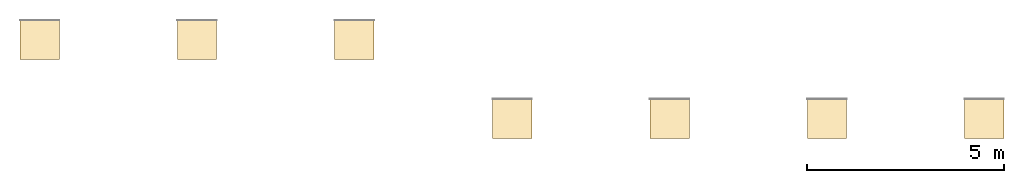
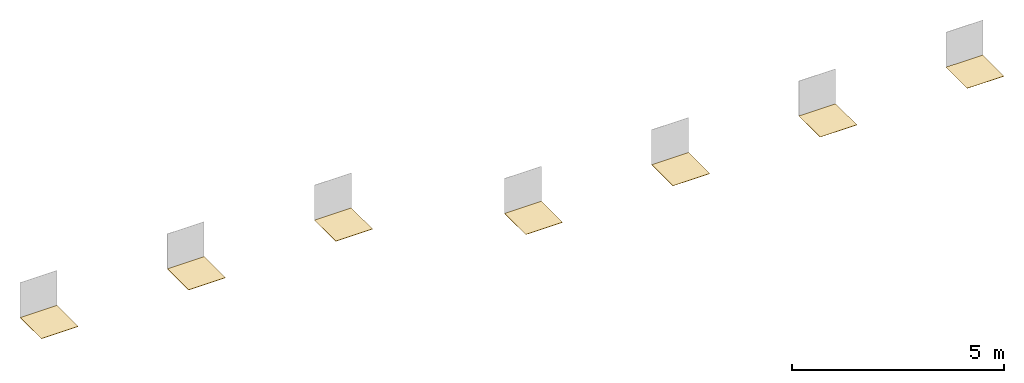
# One storey, part 2 of 2: 7 coverings.
"""IFC2X3 building model written with IfcOpenShell, lengths in millimetres."""

from ifc_helpers import new_model, entity, si_unit, converted_unit, derived_unit, direction, frame, frame_2d, origin, origin_2d_with_axis, place, context, subcontext, project, spatial, rectangle, extrude, material, layer, layer_set, layer_usage, type_object, element, save


model = new_model("IFC2X3")

# Units and contexts
model_context = context("Model", 3, precision=0.01, world=origin(), true_north=direction((6.12303176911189e-17, 1.0)))
body_context = subcontext(model_context, "Body", "Model", "MODEL_VIEW")
ifc_project = project(units=[si_unit("LENGTHUNIT", "METRE", prefix="MILLI"), si_unit("AREAUNIT", "SQUARE_METRE"), si_unit("VOLUMEUNIT", "CUBIC_METRE"), converted_unit("PLANEANGLEUNIT", "DEGREE", entity("IfcRatioMeasure", 0.0174532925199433), si_unit("PLANEANGLEUNIT", "RADIAN"), dimensions=[0, 0, 0, 0, 0, 0, 0]), si_unit("MASSUNIT", "GRAM", prefix="KILO"), derived_unit("MASSDENSITYUNIT", [(si_unit("MASSUNIT", "GRAM", prefix="KILO"), 1), (si_unit("LENGTHUNIT", "METRE"), -3)]), derived_unit("MOMENTOFINERTIAUNIT", [(si_unit("LENGTHUNIT", "METRE"), 4)]), si_unit("TIMEUNIT", "SECOND"), si_unit("FREQUENCYUNIT", "HERTZ"), si_unit("THERMODYNAMICTEMPERATUREUNIT", "DEGREE_CELSIUS"), derived_unit("THERMALTRANSMITTANCEUNIT", [(si_unit("MASSUNIT", "GRAM", prefix="KILO"), 1), (si_unit("THERMODYNAMICTEMPERATUREUNIT", "KELVIN"), -1), (si_unit("TIMEUNIT", "SECOND"), -3)]), derived_unit("VOLUMETRICFLOWRATEUNIT", [(si_unit("LENGTHUNIT", "METRE"), 3), (si_unit("TIMEUNIT", "SECOND"), -1)]), si_unit("ELECTRICCURRENTUNIT", "AMPERE"), si_unit("ELECTRICVOLTAGEUNIT", "VOLT"), si_unit("POWERUNIT", "WATT"), si_unit("FORCEUNIT", "NEWTON", prefix="KILO"), si_unit("ILLUMINANCEUNIT", "LUX"), si_unit("LUMINOUSFLUXUNIT", "LUMEN"), si_unit("LUMINOUSINTENSITYUNIT", "CANDELA"), derived_unit("USERDEFINED", [(si_unit("MASSUNIT", "GRAM", prefix="KILO"), -1), (si_unit("LENGTHUNIT", "METRE"), -2), (si_unit("TIMEUNIT", "SECOND"), 3), (si_unit("LUMINOUSFLUXUNIT", "LUMEN"), 1)]), derived_unit("LINEARVELOCITYUNIT", [(si_unit("LENGTHUNIT", "METRE"), 1), (si_unit("TIMEUNIT", "SECOND"), -1)]), si_unit("PRESSUREUNIT", "PASCAL"), derived_unit("USERDEFINED", [(si_unit("LENGTHUNIT", "METRE"), -2), (si_unit("MASSUNIT", "GRAM", prefix="KILO"), 1), (si_unit("TIMEUNIT", "SECOND"), -2)]), derived_unit("LINEARFORCEUNIT", [(si_unit("MASSUNIT", "GRAM", prefix="KILO"), 1), (si_unit("LENGTHUNIT", "METRE"), 1), (si_unit("TIMEUNIT", "SECOND"), -2), (si_unit("LENGTHUNIT", "METRE"), -1)]), derived_unit("PLANARFORCEUNIT", [(si_unit("MASSUNIT", "GRAM", prefix="KILO"), 1), (si_unit("LENGTHUNIT", "METRE"), 1), (si_unit("TIMEUNIT", "SECOND"), -2), (si_unit("LENGTHUNIT", "METRE"), -2)])], contexts=[model_context])

# Site, building, storey
site_placement = place(None, origin())
site = spatial("IfcSite", under=ifc_project, at=site_placement, Name="Default", CompositionType="ELEMENT")
building_placement = place(site_placement, origin())
building = spatial("IfcBuilding", under=site, at=building_placement, CompositionType="ELEMENT")
storey_placement = place(building_placement, origin())
storey = spatial("IfcBuildingStorey", under=building, at=storey_placement, Name="Level 1", CompositionType="ELEMENT", Elevation=0.0)

# Coverings
ifc_material_1 = material(Name="REVIGRÉS-LOCUS-DECOR-16,5x19-SOFT GRIP-HEXA FLOW BONE")
ifc_layer_1 = layer(ifc_material_1, 8.5)
ifc_layer_set_1 = layer_set([ifc_layer_1], Name="Floor:REVIGRÉS-LOCUS-DECOR-16,5X19-SOFT GRIP-HEXA FLOW BONE")
ifc_layer_usage_1 = layer_usage(ifc_layer_set_1, "AXIS3", "POSITIVE", 0.0)
covering_type_1 = type_object("IfcCoveringType", Name="Floor:REVIGRÉS-LOCUS-DECOR-16,5X19-SOFT GRIP-HEXA FLOW BONE", PredefinedType="CLADDING", material=ifc_layer_set_1)
covering_1_placement = place(storey_placement, origin())
element("IfcCovering", 1, at=covering_1_placement, inside=storey, type_object=covering_type_1, material=ifc_layer_usage_1, Name="Floor:REVIGRÉS-LOCUS-DECOR-16,5X19-SOFT GRIP-HEXA FLOW BONE", ObjectType="Floor:REVIGRÉS-LOCUS-DECOR-16,5X19-SOFT GRIP-HEXA FLOW BONE", PredefinedType="CLADDING", context=body_context, shape_type="SweptSolid", body=[
    extrude(rectangle(XDim=1000.65, YDim=1000.0, at=origin_2d_with_axis()), frame((3436.10173013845, 2603.50079736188, 0.0), z_axis=(0.0, 0.0, -1.0), x_axis=(0.0, 1.0, 0.0)), (0.0, 0.0, 1.0), 8.5),
])
ifc_material_2 = material(Name="REVIGRÉS-LOCUS-DECOR-16,5x19-SOFT GRIP-HEXA FLOW SMOG")
ifc_layer_2 = layer(ifc_material_2, 8.5)
ifc_layer_set_2 = layer_set([ifc_layer_2], Name="Floor:REVIGRÉS-LOCUS-DECOR-16,5X19-SOFT GRIP-HEXA FLOW SMOG")
ifc_layer_usage_2 = layer_usage(ifc_layer_set_2, "AXIS3", "POSITIVE", 0.0)
covering_type_2 = type_object("IfcCoveringType", Name="Floor:REVIGRÉS-LOCUS-DECOR-16,5X19-SOFT GRIP-HEXA FLOW SMOG", PredefinedType="CLADDING", material=ifc_layer_set_2)
covering_2_placement = place(storey_placement, origin())
element("IfcCovering", 2, at=covering_2_placement, inside=storey, type_object=covering_type_2, material=ifc_layer_usage_2, Name="Floor:REVIGRÉS-LOCUS-DECOR-16,5X19-SOFT GRIP-HEXA FLOW SMOG", ObjectType="Floor:REVIGRÉS-LOCUS-DECOR-16,5X19-SOFT GRIP-HEXA FLOW SMOG", PredefinedType="CLADDING", context=body_context, shape_type="SweptSolid", body=[
    extrude(rectangle(XDim=1000.65, YDim=999.999999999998, at=origin_2d_with_axis()), frame((7436.10173013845, 2603.50079736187, 0.0), z_axis=(0.0, 0.0, -1.0), x_axis=(0.0, 1.0, 0.0)), (0.0, 0.0, 1.0), 8.5),
])
ifc_material_3 = material(Name="REVIGRÉS-LOCUS-DECOR-16,5x19-SOFT GRIP-HEXA SHADOW GRIS")
ifc_layer_3 = layer(ifc_material_3, 8.5)
ifc_layer_set_3 = layer_set([ifc_layer_3], Name="Floor:REVIGRÉS-LOCUS-DECOR-16,5X19-SOFT GRIP-HEXA SHADOW GRIS")
ifc_layer_usage_3 = layer_usage(ifc_layer_set_3, "AXIS3", "POSITIVE", 0.0)
covering_type_3 = type_object("IfcCoveringType", Name="Floor:REVIGRÉS-LOCUS-DECOR-16,5X19-SOFT GRIP-HEXA SHADOW GRIS", PredefinedType="CLADDING", material=ifc_layer_set_3)
covering_3_placement = place(storey_placement, origin())
element("IfcCovering", 3, at=covering_3_placement, inside=storey, type_object=covering_type_3, material=ifc_layer_usage_3, Name="Floor:REVIGRÉS-LOCUS-DECOR-16,5X19-SOFT GRIP-HEXA SHADOW GRIS", ObjectType="Floor:REVIGRÉS-LOCUS-DECOR-16,5X19-SOFT GRIP-HEXA SHADOW GRIS", PredefinedType="CLADDING", context=body_context, shape_type="SweptSolid", body=[
    extrude(rectangle(XDim=1000.65, YDim=999.999999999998, at=origin_2d_with_axis()), frame((11436.1017301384, 2603.50079736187, 0.0), z_axis=(0.0, 0.0, -1.0), x_axis=(0.0, 1.0, 0.0)), (0.0, 0.0, 1.0), 8.5),
])
ifc_material_4 = material(Name="REVIGRÉS-LOCUS-DECOR-30X30-SILK-STRATUS 9 LOCUS MIX BRICK")
ifc_layer_4 = layer(ifc_material_4, 8.5)
ifc_layer_set_4 = layer_set([ifc_layer_4], Name="Floor:REVIGRÉS-LOCUS-DECOR-30X30-SILK-STRATUS 9 LOCUS MIX BRICK")
ifc_layer_usage_4 = layer_usage(ifc_layer_set_4, "AXIS3", "POSITIVE", 0.0)
covering_type_4 = type_object("IfcCoveringType", Name="Floor:REVIGRÉS-LOCUS-DECOR-30X30-SILK-STRATUS 9 LOCUS MIX BRICK", PredefinedType="CLADDING", material=ifc_layer_set_4)
covering_4_placement = place(storey_placement, origin())
element("IfcCovering", 4, at=covering_4_placement, inside=storey, type_object=covering_type_4, material=ifc_layer_usage_4, Name="Floor:REVIGRÉS-LOCUS-DECOR-30X30-SILK-STRATUS 9 LOCUS MIX BRICK", ObjectType="Floor:REVIGRÉS-LOCUS-DECOR-30X30-SILK-STRATUS 9 LOCUS MIX BRICK", PredefinedType="CLADDING", context=body_context, shape_type="SweptSolid", body=[
    extrude(rectangle(XDim=999.999999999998, YDim=999.999999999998, at=origin_2d_with_axis()), frame((15448.6427139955, 603.825797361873, 0.0), z_axis=(0.0, 0.0, -1.0), x_axis=(0.0, 1.0, 0.0)), (0.0, 0.0, 1.0), 8.5),
])
ifc_material_5 = material(Name="REVIGRÉS-LOCUS-DECOR-30X30-SILK-STRATUS 9 LOCUS MIX COBALTO")
ifc_layer_5 = layer(ifc_material_5, 8.5)
ifc_layer_set_5 = layer_set([ifc_layer_5], Name="Floor:REVIGRÉS-LOCUS-DECOR-30X30-SILK-STRATUS 9 LOCUS MIX COBALTO")
ifc_layer_usage_5 = layer_usage(ifc_layer_set_5, "AXIS3", "POSITIVE", 0.0)
covering_type_5 = type_object("IfcCoveringType", Name="Floor:REVIGRÉS-LOCUS-DECOR-30X30-SILK-STRATUS 9 LOCUS MIX COBALTO", PredefinedType="CLADDING", material=ifc_layer_set_5)
covering_5_placement = place(storey_placement, origin())
element("IfcCovering", 5, at=covering_5_placement, inside=storey, type_object=covering_type_5, material=ifc_layer_usage_5, Name="Floor:REVIGRÉS-LOCUS-DECOR-30X30-SILK-STRATUS 9 LOCUS MIX COBALTO", ObjectType="Floor:REVIGRÉS-LOCUS-DECOR-30X30-SILK-STRATUS 9 LOCUS MIX COBALTO", PredefinedType="CLADDING", context=body_context, shape_type="SweptSolid", body=[
    extrude(rectangle(XDim=1000.0, YDim=1000.0, at=frame_2d((0.0, -1.08002495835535e-12), x_axis=(1.0, 0.0))), frame((19448.6427139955, 603.82579736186, 0.0), z_axis=(0.0, 0.0, -1.0), x_axis=(0.0, 1.0, 0.0)), (0.0, 0.0, 1.0), 8.5),
])
ifc_material_6 = material(Name="REVIGRÉS-LOCUS-DECOR-30X30-SILK-STRATUS 9 LOCUS MIX OLIVA")
ifc_layer_6 = layer(ifc_material_6, 8.5)
ifc_layer_set_6 = layer_set([ifc_layer_6], Name="Floor:REVIGRÉS-LOCUS-DECOR-30X30-SILK-STRATUS 9 LOCUS MIX OLIVA")
ifc_layer_usage_6 = layer_usage(ifc_layer_set_6, "AXIS3", "POSITIVE", 0.0)
covering_type_6 = type_object("IfcCoveringType", Name="Floor:REVIGRÉS-LOCUS-DECOR-30X30-SILK-STRATUS 9 LOCUS MIX OLIVA", PredefinedType="CLADDING", material=ifc_layer_set_6)
covering_6_placement = place(storey_placement, origin())
element("IfcCovering", 6, at=covering_6_placement, inside=storey, type_object=covering_type_6, material=ifc_layer_usage_6, Name="Floor:REVIGRÉS-LOCUS-DECOR-30X30-SILK-STRATUS 9 LOCUS MIX OLIVA", ObjectType="Floor:REVIGRÉS-LOCUS-DECOR-30X30-SILK-STRATUS 9 LOCUS MIX OLIVA", PredefinedType="CLADDING", context=body_context, shape_type="SweptSolid", body=[
    extrude(rectangle(XDim=1000.0, YDim=999.999999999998, at=origin_2d_with_axis()), frame((23448.6427139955, 603.825797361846, 0.0), z_axis=(0.0, 0.0, -1.0), x_axis=(0.0, 1.0, 0.0)), (0.0, 0.0, 1.0), 8.5),
])
ifc_material_7 = material(Name="REVIGRÉS-LOCUS-DECOR-30X30-SILK-STRATUS 9 LOCUS MIX OCRE")
ifc_layer_7 = layer(ifc_material_7, 8.5)
ifc_layer_set_7 = layer_set([ifc_layer_7], Name="Floor:REVIGRÉS-LOCUS-DECOR-30X30-SILK-STRATUS 9 LOCUS MIX OCRE")
ifc_layer_usage_7 = layer_usage(ifc_layer_set_7, "AXIS3", "POSITIVE", 0.0)
covering_type_7 = type_object("IfcCoveringType", Name="Floor:REVIGRÉS-LOCUS-DECOR-30X30-SILK-STRATUS 9 LOCUS MIX OCRE", PredefinedType="CLADDING", material=ifc_layer_set_7)
covering_7_placement = place(storey_placement, origin())
element("IfcCovering", 7, at=covering_7_placement, inside=storey, type_object=covering_type_7, material=ifc_layer_usage_7, Name="Floor:REVIGRÉS-LOCUS-DECOR-30X30-SILK-STRATUS 9 LOCUS MIX OCRE", ObjectType="Floor:REVIGRÉS-LOCUS-DECOR-30X30-SILK-STRATUS 9 LOCUS MIX OCRE", PredefinedType="CLADDING", context=body_context, shape_type="SweptSolid", body=[
    extrude(rectangle(XDim=1000.0, YDim=999.999999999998, at=origin_2d_with_axis()), frame((27448.6427139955, 603.825797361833, 0.0), z_axis=(0.0, 0.0, -1.0), x_axis=(0.0, 1.0, 0.0)), (0.0, 0.0, 1.0), 8.5),
])

save(model, "model.ifc")
